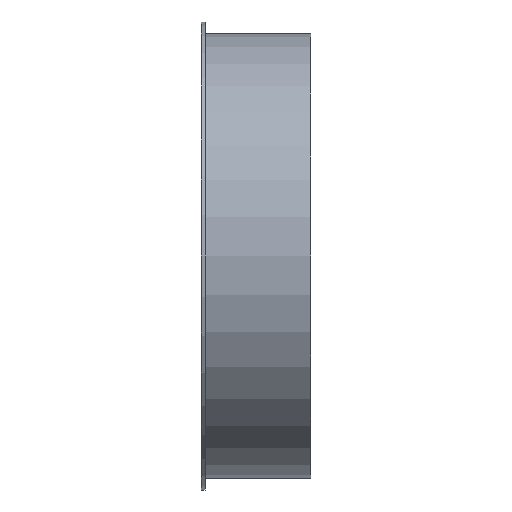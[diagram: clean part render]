
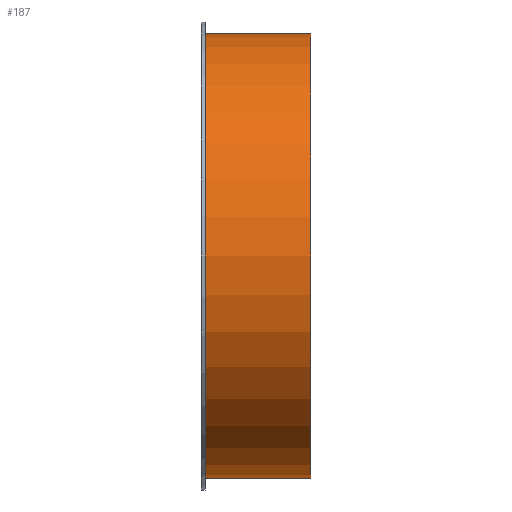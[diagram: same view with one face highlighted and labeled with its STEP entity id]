
A CAD part, front view. The second image highlights one B-rep face of the part: STEP entity #187.
In plain terms, the highlighted cylindrical face has radius 111.5 mm (diameter 223 mm), a full revolution.
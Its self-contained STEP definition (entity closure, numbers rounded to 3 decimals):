
#112=CARTESIAN_POINT('',(-15.,0.,0.0));
#113=VERTEX_POINT('',#112);
#114=CARTESIAN_POINT('',(-15.,111.5,0.0));
#115=DIRECTION('',(-1.0,0.0,0.0));
#116=DIRECTION('',(0.0,-1.0,0.0));
#117=AXIS2_PLACEMENT_3D('',#114,#115,#116);
#118=CIRCLE('',#117,111.5);
#119=EDGE_CURVE('',#113,#113,#118,.T.);
#161=CARTESIAN_POINT('',(38.0,0.,0.0));
#162=VERTEX_POINT('',#161);
#163=CARTESIAN_POINT('',(38.,111.5,0.0));
#164=DIRECTION('',(-1.0,0.0,0.0));
#165=DIRECTION('',(0.0,-1.0,0.0));
#166=AXIS2_PLACEMENT_3D('',#163,#164,#165);
#167=CIRCLE('',#166,111.5);
#168=EDGE_CURVE('',#162,#162,#167,.T.);
#176=CARTESIAN_POINT('',(11.5,111.5,0.0));
#177=DIRECTION('',(-1.0,0.,0.0));
#178=DIRECTION('',(0.0,-1.0,0.0));
#179=AXIS2_PLACEMENT_3D('',#176,#177,#178);
#180=CYLINDRICAL_SURFACE('',#179,111.5);
#181=ORIENTED_EDGE('',*,*,#119,.F.);
#182=EDGE_LOOP('',(#181));
#183=FACE_OUTER_BOUND('',#182,.T.);
#184=ORIENTED_EDGE('',*,*,#168,.T.);
#185=EDGE_LOOP('',(#184));
#186=FACE_BOUND('',#185,.T.);
#187=ADVANCED_FACE('',(#183,#186),#180,.T.);
